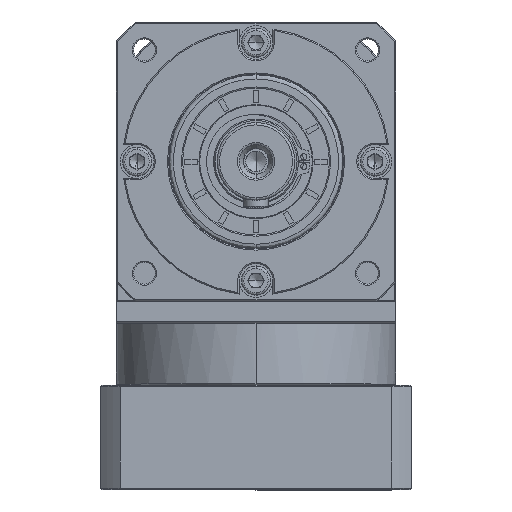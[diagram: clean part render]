
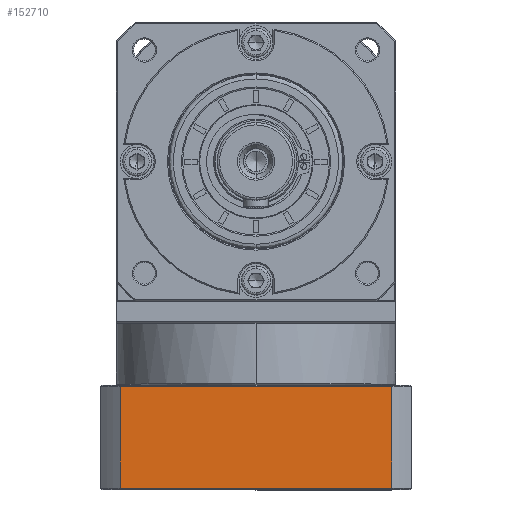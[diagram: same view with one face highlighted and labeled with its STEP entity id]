
A CAD part, top view. The second image highlights one B-rep face of the part: STEP entity #152710.
In plain terms, the highlighted planar face has unit normal (0, 0, 1).
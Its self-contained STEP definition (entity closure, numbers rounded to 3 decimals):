
#1159 = ORIENTED_EDGE ( 'NONE', *, *, #5931, .F. ) ;
#2032 = LINE ( 'NONE', #90023, #73382 ) ;
#5931 = EDGE_CURVE ( 'NONE', #63541, #79552, #165463, .T. ) ;
#8914 = DIRECTION ( 'NONE',  ( 1., 0., 0. ) ) ;
#12743 = AXIS2_PLACEMENT_3D ( 'NONE', #101410, #20950, #114942 ) ;
#16008 = VECTOR ( 'NONE', #76430, 1000. ) ;
#17630 = VERTEX_POINT ( 'NONE', #44445 ) ;
#18227 = ORIENTED_EDGE ( 'NONE', *, *, #44724, .F. ) ;
#18388 = CARTESIAN_POINT ( 'NONE',  ( -157.137, 106.643, 31.413 ) ) ;
#20950 = DIRECTION ( 'NONE',  ( 0., 0., -1. ) ) ;
#27345 = VERTEX_POINT ( 'NONE', #147836 ) ;
#31888 = CARTESIAN_POINT ( 'NONE',  ( -157.137, -188.271, 31.413 ) ) ;
#33851 = PLANE ( 'NONE',  #12743 ) ;
#44445 = CARTESIAN_POINT ( 'NONE',  ( -269.012, -146.271, 31.413 ) ) ;
#44724 = EDGE_CURVE ( 'NONE', #79552, #27345, #87440, .T. ) ;
#51535 = EDGE_CURVE ( 'NONE', #27345, #17630, #116934, .T. ) ;
#58074 = VECTOR ( 'NONE', #139312, 1000. ) ;
#61368 = ORIENTED_EDGE ( 'NONE', *, *, #76501, .F. ) ;
#63541 = VERTEX_POINT ( 'NONE', #98575 ) ;
#68955 = EDGE_LOOP ( 'NONE', ( #1159, #61368, #92760, #18227 ) ) ;
#73382 = VECTOR ( 'NONE', #8914, 1000. ) ;
#76430 = DIRECTION ( 'NONE',  ( -1., 0., 0. ) ) ;
#76501 = EDGE_CURVE ( 'NONE', #17630, #63541, #2032, .T. ) ;
#79552 = VERTEX_POINT ( 'NONE', #31888 ) ;
#81214 = VECTOR ( 'NONE', #162365, 1000. ) ;
#87440 = LINE ( 'NONE', #154721, #16008 ) ;
#90023 = CARTESIAN_POINT ( 'NONE',  ( -277.075, -146.271, 31.413 ) ) ;
#92760 = ORIENTED_EDGE ( 'NONE', *, *, #51535, .F. ) ;
#98575 = CARTESIAN_POINT ( 'NONE',  ( -157.137, -146.271, 31.413 ) ) ;
#101410 = CARTESIAN_POINT ( 'NONE',  ( -277.075, -188.771, 31.413 ) ) ;
#114942 = DIRECTION ( 'NONE',  ( -1., 0., 0. ) ) ;
#116934 = LINE ( 'NONE', #135215, #81214 ) ;
#135215 = CARTESIAN_POINT ( 'NONE',  ( -269.012, -188.771, 31.413 ) ) ;
#139312 = DIRECTION ( 'NONE',  ( 0., -1., 0. ) ) ;
#147836 = CARTESIAN_POINT ( 'NONE',  ( -269.012, -188.271, 31.413 ) ) ;
#152710 = ADVANCED_FACE ( 'NONE', ( #161948 ), #33851, .F. ) ;
#154721 = CARTESIAN_POINT ( 'NONE',  ( -277.075, -188.271, 31.413 ) ) ;
#161948 = FACE_OUTER_BOUND ( 'NONE', #68955, .T. ) ;
#162365 = DIRECTION ( 'NONE',  ( 0., 1., 0. ) ) ;
#165463 = LINE ( 'NONE', #18388, #58074 ) ;
